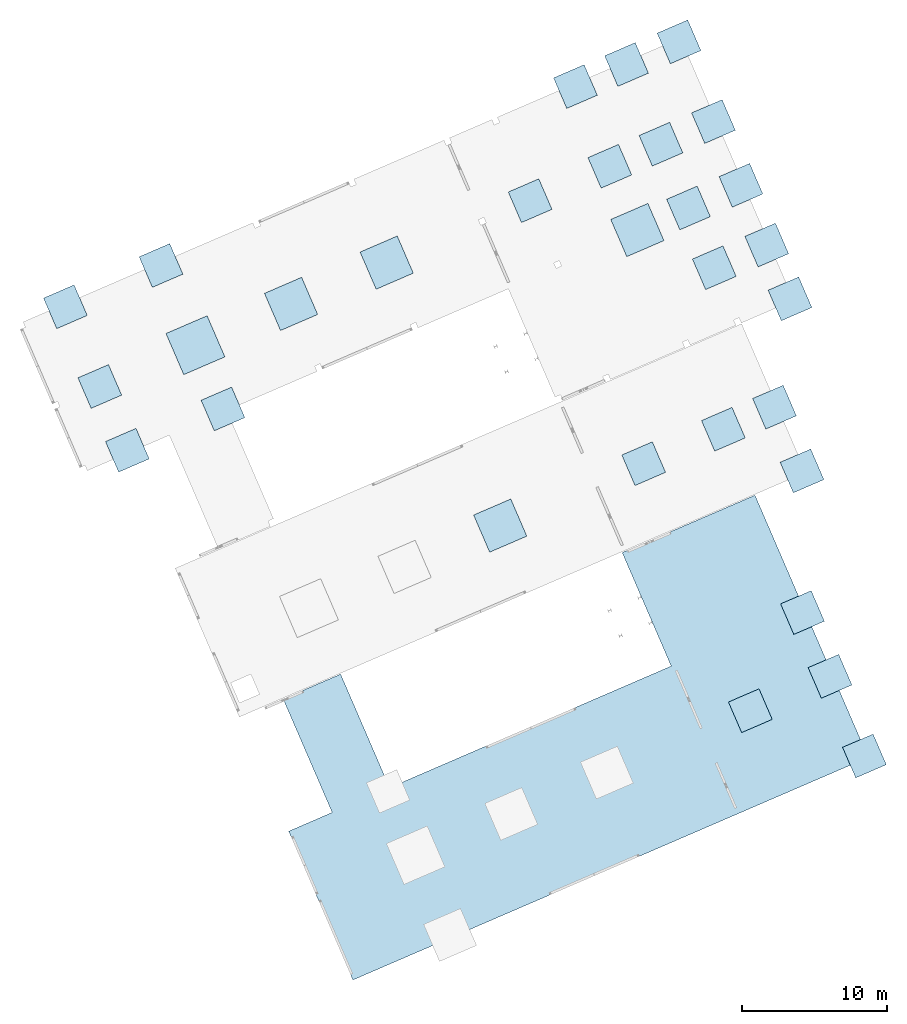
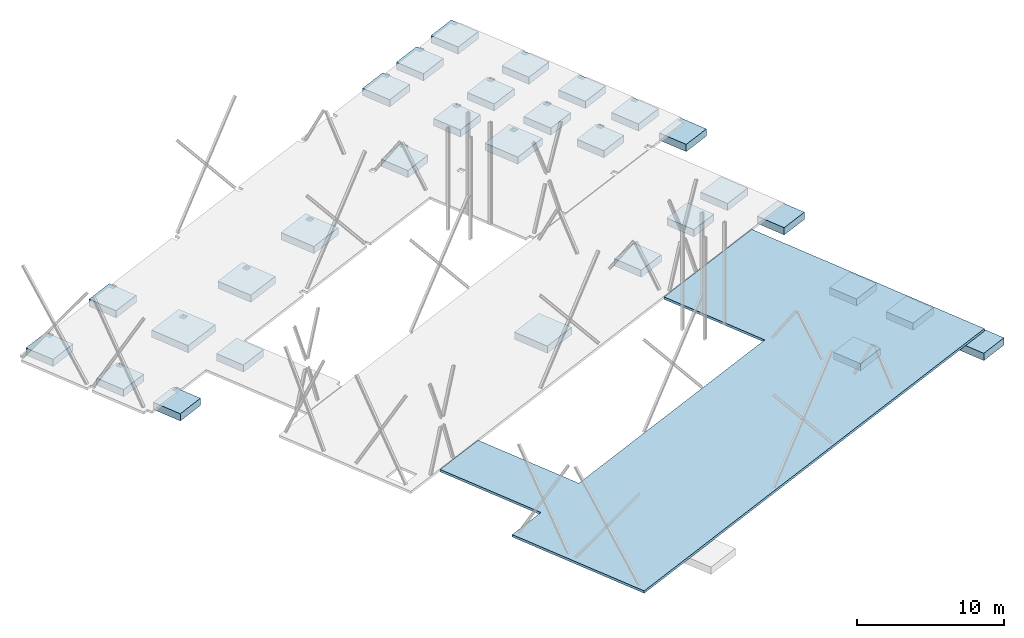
# One storey, part 5 of 6: 31 slabs.
"""IFC4 building model written with IfcOpenShell, lengths in metres."""

from ifc_helpers import new_model, entity, si_unit, converted_unit, derived_unit, direction, frame, origin, place, context, subcontext, project, spatial, indexed_curve, outline, extrude, material, type_object, element, save


model = new_model("IFC4")

# Units and contexts
model_context = context("Model", 3, precision=1e-05, world=origin(), true_north=direction((6.12323399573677e-17, 1.0)))
body_context = subcontext(model_context, "Body", "Model", "MODEL_VIEW")
ifc_project = project(units=[si_unit("LENGTHUNIT", "METRE"), si_unit("AREAUNIT", "SQUARE_METRE"), si_unit("VOLUMEUNIT", "CUBIC_METRE"), converted_unit("PLANEANGLEUNIT", "DEGREE", entity("IfcPlaneAngleMeasure", 0.0174532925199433), si_unit("PLANEANGLEUNIT", "RADIAN"), dimensions=[0, 0, 0, 0, 0, 0, 0]), si_unit("MASSUNIT", "GRAM", prefix="KILO"), derived_unit("MOMENTOFINERTIAUNIT", [(si_unit("LENGTHUNIT", "METRE"), 4)]), derived_unit("LINEARFORCEUNIT", [(si_unit("MASSUNIT", "GRAM", prefix="KILO"), 1), (si_unit("TIMEUNIT", "SECOND"), -2)]), derived_unit("WARPINGCONSTANTUNIT", [(si_unit("LENGTHUNIT", "METRE"), 6)]), derived_unit("THERMALTRANSMITTANCEUNIT", [(si_unit("MASSUNIT", "GRAM", prefix="KILO"), 1), (si_unit("THERMODYNAMICTEMPERATUREUNIT", "KELVIN"), -1), (si_unit("TIMEUNIT", "SECOND"), -3)]), derived_unit("USERDEFINED", [(si_unit("MASSUNIT", "GRAM", prefix="KILO"), 1), (si_unit("TIMEUNIT", "SECOND"), -2), (si_unit("THERMODYNAMICTEMPERATUREUNIT", "KELVIN"), -1)]), derived_unit("THERMALRESISTANCEUNIT", [(si_unit("MASSUNIT", "GRAM", prefix="KILO"), -1), (si_unit("TIMEUNIT", "SECOND"), 3), (si_unit("THERMODYNAMICTEMPERATUREUNIT", "KELVIN"), 1)])], contexts=[model_context])

# Site, building, storey
site_placement = place(None, origin())
site = spatial("IfcSite", under=ifc_project, at=site_placement, Name="Default", CompositionType="ELEMENT")
building_placement = place(site_placement, frame((12.6613425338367, -82.5732315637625, 317.15), z_axis=(0.0, 0.0, 1.0), x_axis=(-0.396377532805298, 0.918087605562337, 0.0)))
building = spatial("IfcBuilding", under=site, at=building_placement, Name="CESFAM Coyhaique", CompositionType="ELEMENT")
storey_placement = place(building_placement, frame((0.0, 0.0, -0.0500000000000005)))
storey = spatial("IfcBuildingStorey", under=building, at=storey_placement, Name="Nivel 1", CompositionType="ELEMENT", Elevation=-0.0500000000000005)

# Slabs
ifc_material_1 = material(Name="HA")
slab_type_1 = type_object("IfcSlabType", Name="Floor:Radier - 100mm", PredefinedType="FLOOR", material=ifc_material_1)
slab_1_placement = place(storey_placement, origin())
element("IfcSlab", 1, at=slab_1_placement, inside=storey, type_object=slab_type_1, material=ifc_material_1, Name="Floor:Radier - 100mm", ObjectType="Floor:Radier - 100mm", PredefinedType="FLOOR", context=body_context, shape_type="SweptSolid", body=[
    extrude(outline(indexed_curve([(-23.1050003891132, -12.3799848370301), (15.6950000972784, -12.3799848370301), (15.6950000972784, -1.17998483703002), (12.4200000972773, -1.17998483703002), (12.4200000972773, 7.37001525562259), (8.09500009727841, 7.37001525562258), (8.09500009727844, -1.17998483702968), (-13.104999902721, -1.17998483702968), (-13.104999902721, 7.36993925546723), (-23.1050003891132, 7.36993925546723), (-23.1050003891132, -12.3799848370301)], self_intersect=False)), frame((16.3488382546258, 1.70785030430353, 0.0), z_axis=(0.0, 0.0, -1.0), x_axis=(0.0, 1.0, 0.0)), (0.0, 0.0, 1.0), 0.2),
])
ifc_material_2 = material(Name="HA", Category="Undefined")
slab_type_2 = type_object("IfcSlabType", Name="M_Pile Cap-Rectangular:2800 x 2800 x 600mm", PredefinedType="BASESLAB", material=ifc_material_1)
slab_2_placement = place(storey_placement, origin())
element("IfcSlab", 2, at=slab_2_placement, inside=storey, type_object=slab_type_2, material=ifc_material_2, Name="M_Pile Cap-Rectangular:2800 x 2800 x 600mm", ObjectType="M_Pile Cap-Rectangular:2800 x 2800 x 600mm", PredefinedType="BASESLAB", context=body_context, shape_type="SweptSolid", body=[
    extrude(outline(indexed_curve([(-1.40000000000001, -1.4), (-0.100000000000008, -1.4), (0.0999999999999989, -1.4), (1.39999999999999, -1.4), (1.39999999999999, -0.0999999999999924), (1.39999999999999, 0.100000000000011), (1.39999999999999, 1.4), (0.0999999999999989, 1.4), (-0.100000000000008, 1.4), (-1.40000000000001, 1.4), (-1.40000000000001, 0.100000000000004), (-1.40000000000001, -0.0999999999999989), (-1.40000000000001, -1.4)], self_intersect=False)), frame((28.7688534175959, -4.39714959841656, -1.5), z_axis=(0.0, 0.0, 1.0), x_axis=(-1.0, 0.0, 0.0)), (0.0, 0.0, 1.0), 0.6),
])
slab_3_placement = place(storey_placement, origin())
element("IfcSlab", 3, at=slab_3_placement, inside=storey, type_object=slab_type_2, material=ifc_material_2, Name="M_Pile Cap-Rectangular:2800 x 2800 x 600mm", ObjectType="M_Pile Cap-Rectangular:2800 x 2800 x 600mm", PredefinedType="BASESLAB", context=body_context, shape_type="SweptSolid", body=[
    extrude(outline(indexed_curve([(-1.40000000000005, -1.4), (-0.0999999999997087, -1.4), (0.100000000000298, -1.4), (1.39999999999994, -1.4), (1.39999999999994, -0.100000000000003), (1.39999999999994, 0.100000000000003), (1.39999999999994, 1.4), (0.0999999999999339, 1.4), (-0.100000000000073, 1.4), (-1.40000000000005, 1.4), (-1.40000000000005, 0.100000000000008), (-1.40000000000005, -0.0999999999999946), (-1.40000000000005, -1.4)], self_intersect=False)), frame((43.7688534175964, -21.197149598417, -1.5), z_axis=(0.0, 0.0, 1.0), x_axis=(-1.0, 0.0, 0.0)), (0.0, 0.0, 1.0), 0.6),
])
slab_4_placement = place(storey_placement, origin())
element("IfcSlab", 4, at=slab_4_placement, inside=storey, type_object=slab_type_2, material=ifc_material_2, Name="M_Pile Cap-Rectangular:2800 x 2800 x 600mm", ObjectType="M_Pile Cap-Rectangular:2800 x 2800 x 600mm", PredefinedType="BASESLAB", context=body_context, shape_type="SweptSolid", body=[
    extrude(outline(indexed_curve([(-1.40000000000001, -1.4), (-0.100000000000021, -1.4), (0.0999999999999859, -1.4), (1.39999999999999, -1.4), (1.39999999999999, -0.0999999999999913), (1.39999999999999, 0.100000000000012), (1.39999999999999, 1.4), (0.0999999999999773, 1.4), (-0.100000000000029, 1.4), (-1.40000000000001, 1.4), (-1.40000000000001, 0.100000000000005), (-1.40000000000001, -0.0999999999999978), (-1.40000000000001, -1.4)], self_intersect=False)), frame((48.5688534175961, 2.80285040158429, -1.5), z_axis=(0.0, 0.0, 1.0), x_axis=(-1.0, 0.0, 0.0)), (0.0, 0.0, 1.0), 0.6),
])
slab_5_placement = place(storey_placement, origin())
element("IfcSlab", 5, at=slab_5_placement, inside=storey, type_object=slab_type_2, material=ifc_material_2, Name="M_Pile Cap-Rectangular:2800 x 2800 x 600mm", ObjectType="M_Pile Cap-Rectangular:2800 x 2800 x 600mm", PredefinedType="BASESLAB", context=body_context, shape_type="SweptSolid", body=[
    extrude(outline(indexed_curve([(-1.40000000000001, -1.4), (-0.100000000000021, -1.4), (0.0999999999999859, -1.4), (1.39999999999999, -1.4), (1.39999999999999, -0.0999999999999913), (1.39999999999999, 0.100000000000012), (1.39999999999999, 1.4), (0.0999999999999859, 1.4), (-0.100000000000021, 1.4), (-1.40000000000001, 1.4), (-1.40000000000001, 0.100000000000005), (-1.40000000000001, -0.0999999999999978), (-1.40000000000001, -1.4)], self_intersect=False)), frame((48.5688534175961, -4.39714959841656, -1.5), z_axis=(0.0, 0.0, 1.0), x_axis=(-1.0, 0.0, 0.0)), (0.0, 0.0, 1.0), 0.6),
])
slab_type_3 = type_object("IfcSlabType", Name="M_Pile Cap-Rectangular:2300 x 2300 x 600mm", PredefinedType="BASESLAB", material=ifc_material_1)
slab_6_placement = place(storey_placement, origin())
element("IfcSlab", 6, at=slab_6_placement, inside=storey, type_object=slab_type_3, material=ifc_material_2, Name="M_Pile Cap-Rectangular:2300 x 2300 x 600mm", ObjectType="M_Pile Cap-Rectangular:2300 x 2300 x 600mm", PredefinedType="BASESLAB", context=body_context, shape_type="SweptSolid", body=[
    extrude(outline(indexed_curve([(-0.862500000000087, -0.862500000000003), (0.18750000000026, -0.862500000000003), (0.387500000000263, -0.862500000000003), (1.43749999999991, -0.862500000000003), (1.43749999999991, 1.4375), (-0.862500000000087, 1.4375), (-0.862500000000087, 0.387500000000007), (-0.862500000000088, 0.187500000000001), (-0.862500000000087, -0.862500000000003)], self_intersect=False)), frame((4.4563534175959, -20.9096495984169, -1.5), z_axis=(0.0, 0.0, 1.0), x_axis=(-1.0, 0.0, 0.0)), (0.0, 0.0, 1.0), 0.6),
])
slab_7_placement = place(storey_placement, origin())
element("IfcSlab", 7, at=slab_7_placement, inside=storey, type_object=slab_type_3, material=ifc_material_2, Name="M_Pile Cap-Rectangular:2300 x 2300 x 600mm", ObjectType="M_Pile Cap-Rectangular:2300 x 2300 x 600mm", PredefinedType="BASESLAB", context=body_context, shape_type="SweptSolid", body=[
    extrude(outline(indexed_curve([(-1.15000000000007, -0.920000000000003), (-0.0999999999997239, -0.920000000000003), (0.100000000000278, -0.920000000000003), (1.14999999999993, -0.920000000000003), (1.14999999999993, 0.129999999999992), (1.14999999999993, 0.329999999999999), (1.14999999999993, 1.38), (-1.15000000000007, 1.38), (-1.15000000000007, 0.330000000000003), (-1.15000000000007, 0.130000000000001), (-1.15000000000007, -0.920000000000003)], self_intersect=False)), frame((10.168853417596, -20.9671495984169, -1.5), z_axis=(0.0, 0.0, 1.0), x_axis=(-1.0, 0.0, 0.0)), (0.0, 0.0, 1.0), 0.6),
])
slab_8_placement = place(storey_placement, origin())
element("IfcSlab", 8, at=slab_8_placement, inside=storey, type_object=slab_type_3, material=ifc_material_2, Name="M_Pile Cap-Rectangular:2300 x 2300 x 600mm", ObjectType="M_Pile Cap-Rectangular:2300 x 2300 x 600mm", PredefinedType="BASESLAB", context=body_context, shape_type="SweptSolid", body=[
    extrude(outline(indexed_curve([(-1.15000000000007, -0.920000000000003), (-0.099999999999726, -0.920000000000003), (0.100000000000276, -0.920000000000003), (1.14999999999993, -0.920000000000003), (1.14999999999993, 0.129999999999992), (1.14999999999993, 0.329999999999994), (1.14999999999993, 1.38), (-1.15000000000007, 1.38), (-1.15000000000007, 0.330000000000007), (-1.15000000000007, 0.130000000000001), (-1.15000000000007, -0.920000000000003)], self_intersect=False)), frame((14.968853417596, -20.9671495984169, -1.5), z_axis=(0.0, 0.0, 1.0), x_axis=(-1.0, 0.0, 0.0)), (0.0, 0.0, 1.0), 0.6),
])
slab_9_placement = place(storey_placement, origin())
element("IfcSlab", 9, at=slab_9_placement, inside=storey, type_object=slab_type_3, material=ifc_material_2, Name="M_Pile Cap-Rectangular:2300 x 2300 x 600mm", ObjectType="M_Pile Cap-Rectangular:2300 x 2300 x 600mm", PredefinedType="BASESLAB", context=body_context, shape_type="SweptSolid", body=[
    extrude(outline(indexed_curve([(-1.15, -0.919999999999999), (-0.100000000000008, -0.919999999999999), (0.0999999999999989, -0.919999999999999), (1.15, -0.919999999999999), (1.15, 0.129999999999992), (1.15, 0.329999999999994), (1.15, 1.38), (-1.15, 1.38), (-1.15, 0.330000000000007), (-1.15, 0.130000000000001), (-1.15, -0.919999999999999)], self_intersect=False)), frame((28.7688534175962, -20.967149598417, -1.5), z_axis=(0.0, 0.0, 1.0), x_axis=(-1.0, 0.0, 0.0)), (0.0, 0.0, 1.0), 0.6),
])
slab_10_placement = place(storey_placement, origin())
element("IfcSlab", 10, at=slab_10_placement, inside=storey, type_object=slab_type_3, material=ifc_material_2, Name="M_Pile Cap-Rectangular:2300 x 2300 x 600mm", ObjectType="M_Pile Cap-Rectangular:2300 x 2300 x 600mm", PredefinedType="BASESLAB", context=body_context, shape_type="SweptSolid", body=[
    extrude(outline(indexed_curve([(-1.15, -1.15000000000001), (-0.100000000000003, -1.15000000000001), (0.100000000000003, -1.15000000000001), (1.15, -1.15000000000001), (1.15, -0.0999999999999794), (1.15, 0.100000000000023), (1.15, 1.14999999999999), (0.0999999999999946, 1.14999999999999), (-0.100000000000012, 1.14999999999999), (-1.15, 1.14999999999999), (-1.15, 0.100000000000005), (-1.15, -0.0999999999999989), (-1.15, -1.15000000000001)], self_intersect=False)), frame((43.7688534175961, 17.2028504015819, -1.5), z_axis=(0.0, 0.0, 1.0), x_axis=(-1.0, 0.0, 0.0)), (0.0, 0.0, 1.0), 0.6),
])
slab_11_placement = place(storey_placement, origin())
element("IfcSlab", 11, at=slab_11_placement, inside=storey, type_object=slab_type_3, material=ifc_material_2, Name="M_Pile Cap-Rectangular:2300 x 2300 x 600mm", ObjectType="M_Pile Cap-Rectangular:2300 x 2300 x 600mm", PredefinedType="BASESLAB", context=body_context, shape_type="SweptSolid", body=[
    extrude(outline(indexed_curve([(-1.15, -1.15000000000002), (-0.100000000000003, -1.15000000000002), (0.100000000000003, -1.15000000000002), (1.15, -1.15000000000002), (1.15, -0.0999999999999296), (1.15, 0.100000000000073), (1.15, 1.14999999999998), (0.0999999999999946, 1.14999999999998), (-0.100000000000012, 1.14999999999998), (-1.15, 1.14999999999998), (-1.15, 0.0999999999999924), (-1.15, -0.100000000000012), (-1.15, -1.15000000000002)], self_intersect=False)), frame((43.7688534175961, 10.0028504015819, -1.5), z_axis=(0.0, 0.0, 1.0), x_axis=(-1.0, 0.0, 0.0)), (0.0, 0.0, 1.0), 0.6),
])
slab_12_placement = place(storey_placement, origin())
element("IfcSlab", 12, at=slab_12_placement, inside=storey, type_object=slab_type_3, material=ifc_material_2, Name="M_Pile Cap-Rectangular:2300 x 2300 x 600mm", ObjectType="M_Pile Cap-Rectangular:2300 x 2300 x 600mm", PredefinedType="BASESLAB", context=body_context, shape_type="SweptSolid", body=[
    extrude(outline(indexed_curve([(-1.15, -1.15), (-0.100000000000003, -1.15), (0.100000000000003, -1.15), (1.15, -1.15), (1.15, -0.0999999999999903), (1.15, 0.100000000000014), (1.15, 1.15), (0.0999999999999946, 1.15), (-0.100000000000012, 1.15), (-1.15, 1.15), (-1.15, 0.100000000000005), (-1.15, -0.0999999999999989), (-1.15, -1.15)], self_intersect=False)), frame((48.5688534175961, 17.2028504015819, -1.5), z_axis=(0.0, 0.0, 1.0), x_axis=(-1.0, 0.0, 0.0)), (0.0, 0.0, 1.0), 0.6),
])
slab_13_placement = place(storey_placement, origin())
element("IfcSlab", 13, at=slab_13_placement, inside=storey, type_object=slab_type_3, material=ifc_material_2, Name="M_Pile Cap-Rectangular:2300 x 2300 x 600mm", ObjectType="M_Pile Cap-Rectangular:2300 x 2300 x 600mm", PredefinedType="BASESLAB", context=body_context, shape_type="SweptSolid", body=[
    extrude(outline(indexed_curve([(-1.15000000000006, -1.15), (-0.0999999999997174, -1.15), (0.100000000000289, -1.15), (1.14999999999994, -1.15), (1.14999999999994, -0.100000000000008), (1.14999999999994, 0.0999999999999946), (1.14999999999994, 1.15), (0.0999999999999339, 1.15), (-0.100000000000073, 1.15), (-1.15000000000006, 1.15), (-1.15000000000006, 0.100000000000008), (-1.15000000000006, -0.0999999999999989), (-1.15000000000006, -1.15)], self_intersect=False)), frame((48.5688534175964, -21.1971495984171, -1.5), z_axis=(0.0, 0.0, 1.0), x_axis=(-1.0, 0.0, 0.0)), (0.0, 0.0, 1.0), 0.6),
])
slab_14_placement = place(storey_placement, origin())
element("IfcSlab", 14, at=slab_14_placement, inside=storey, type_object=slab_type_3, material=ifc_material_2, Name="M_Pile Cap-Rectangular:2300 x 2300 x 600mm", ObjectType="M_Pile Cap-Rectangular:2300 x 2300 x 600mm", PredefinedType="BASESLAB", context=body_context, shape_type="SweptSolid", body=[
    extrude(outline(indexed_curve([(-1.38, -1.15), (-0.330000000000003, -1.15), (-0.129999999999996, -1.15), (0.919999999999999, -1.15), (0.919999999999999, -0.0999999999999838), (0.919999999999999, 0.100000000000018), (0.919999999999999, 1.15), (-0.129999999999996, 1.15), (-0.330000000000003, 1.15), (-1.38, 1.15), (-1.38, -1.15)], self_intersect=False)), frame((54.3388534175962, 17.2028504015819, -1.5), z_axis=(0.0, 0.0, 1.0), x_axis=(-1.0, 0.0, 0.0)), (0.0, 0.0, 1.0), 0.6),
])
slab_15_placement = place(storey_placement, origin())
element("IfcSlab", 15, at=slab_15_placement, inside=storey, type_object=slab_type_3, material=ifc_material_2, Name="M_Pile Cap-Rectangular:2300 x 2300 x 600mm", ObjectType="M_Pile Cap-Rectangular:2300 x 2300 x 600mm", PredefinedType="BASESLAB", context=body_context, shape_type="SweptSolid", body=[
    extrude(outline(indexed_curve([(-1.38, -1.15000000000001), (-0.329999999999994, -1.15000000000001), (-0.129999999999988, -1.15000000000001), (0.919999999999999, -1.15000000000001), (0.919999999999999, -0.0999999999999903), (0.919999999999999, 0.100000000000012), (0.919999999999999, 1.15), (-0.130000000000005, 1.14999999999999), (-0.330000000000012, 1.15), (-1.38, 1.15), (-1.38, -1.15000000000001)], self_intersect=False)), frame((54.3388534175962, 10.0028504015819, -1.5), z_axis=(0.0, 0.0, 1.0), x_axis=(-1.0, 0.0, 0.0)), (0.0, 0.0, 1.0), 0.6),
])
slab_16_placement = place(storey_placement, origin())
element("IfcSlab", 16, at=slab_16_placement, inside=storey, type_object=slab_type_3, material=ifc_material_2, Name="M_Pile Cap-Rectangular:2300 x 2300 x 600mm", ObjectType="M_Pile Cap-Rectangular:2300 x 2300 x 600mm", PredefinedType="BASESLAB", context=body_context, shape_type="SweptSolid", body=[
    extrude(outline(indexed_curve([(-1.38000000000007, -1.15), (-0.329999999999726, -1.15), (-0.129999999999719, -1.15), (0.919999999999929, -1.15), (0.919999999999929, -0.100000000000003), (0.919999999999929, 0.100000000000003), (0.919999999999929, 1.15), (-0.130000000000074, 1.15), (-0.330000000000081, 1.15), (-1.38000000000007, 1.15), (-1.38000000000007, -1.15)], self_intersect=False)), frame((54.3388534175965, -21.1971495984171, -1.5), z_axis=(0.0, 0.0, 1.0), x_axis=(-1.0, 0.0, 0.0)), (0.0, 0.0, 1.0), 0.6),
])
slab_17_placement = place(storey_placement, origin())
element("IfcSlab", 17, at=slab_17_placement, inside=storey, type_object=slab_type_3, material=ifc_material_2, Name="M_Pile Cap-Rectangular:2300 x 2300 x 600mm", ObjectType="M_Pile Cap-Rectangular:2300 x 2300 x 600mm", PredefinedType="BASESLAB", context=body_context, shape_type="SweptSolid", body=[
    extrude(outline(indexed_curve([(-1.15, -0.919999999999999), (-0.100000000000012, -0.919999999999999), (0.0999999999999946, -0.919999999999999), (1.15, -0.919999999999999), (1.15, 0.129999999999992), (1.15, 0.329999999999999), (1.15, 1.38), (-1.15, 1.38), (-1.15, 0.330000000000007), (-1.15, 0.130000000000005), (-1.15, -0.919999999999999)], self_intersect=False)), frame((43.7688534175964, -28.767149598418, -1.5), z_axis=(0.0, 0.0, 1.0), x_axis=(-1.0, 0.0, 0.0)), (0.0, 0.0, 1.0), 0.6),
])
slab_18_placement = place(storey_placement, origin())
element("IfcSlab", 18, at=slab_18_placement, inside=storey, type_object=slab_type_3, material=ifc_material_2, Name="M_Pile Cap-Rectangular:2300 x 2300 x 600mm", ObjectType="M_Pile Cap-Rectangular:2300 x 2300 x 600mm", PredefinedType="BASESLAB", context=body_context, shape_type="SweptSolid", body=[
    extrude(outline(indexed_curve([(-1.14999999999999, -0.920000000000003), (-0.100000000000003, -0.920000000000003), (0.100000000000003, -0.920000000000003), (1.15000000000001, -0.920000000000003), (1.15000000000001, 0.129999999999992), (1.15000000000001, 0.329999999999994), (1.15000000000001, 1.38), (-1.14999999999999, 1.38), (-1.14999999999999, 0.330000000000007), (-1.14999999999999, 0.130000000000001), (-1.14999999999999, -0.920000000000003)], self_intersect=False)), frame((48.5688534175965, -28.7671495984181, -1.5), z_axis=(0.0, 0.0, 1.0), x_axis=(-1.0, 0.0, 0.0)), (0.0, 0.0, 1.0), 0.6),
])
slab_19_placement = place(storey_placement, origin())
element("IfcSlab", 19, at=slab_19_placement, inside=storey, type_object=slab_type_3, material=ifc_material_2, Name="M_Pile Cap-Rectangular:2300 x 2300 x 600mm", ObjectType="M_Pile Cap-Rectangular:2300 x 2300 x 600mm", PredefinedType="BASESLAB", context=body_context, shape_type="SweptSolid", body=[
    extrude(outline(indexed_curve([(-1.4375, -0.862499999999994), (-0.387499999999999, -0.862499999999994), (-0.187499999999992, -0.862499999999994), (0.862499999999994, -0.862499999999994), (0.862499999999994, 0.187500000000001), (0.862499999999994, 0.387500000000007), (0.862499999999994, 1.43750000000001), (-1.4375, 1.43750000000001), (-1.4375, -0.862499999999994)], self_intersect=False)), frame((54.2813534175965, -28.7096495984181, -1.5), z_axis=(0.0, 0.0, 1.0), x_axis=(-1.0, 0.0, 0.0)), (0.0, 0.0, 1.0), 0.6),
])
slab_20_placement = place(storey_placement, origin())
element("IfcSlab", 20, at=slab_20_placement, inside=storey, type_object=slab_type_3, material=ifc_material_2, Name="M_Pile Cap-Rectangular:2300 x 2300 x 600mm", ObjectType="M_Pile Cap-Rectangular:2300 x 2300 x 600mm", PredefinedType="BASESLAB", context=body_context, shape_type="SweptSolid", body=[
    extrude(outline(indexed_curve([(-1.15, -1.15), (-0.100000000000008, -1.15), (0.0999999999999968, -1.15), (1.15, -1.15), (1.15, -0.0999999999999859), (1.15, 0.100000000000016), (1.15, 1.15), (0.100000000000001, 1.15), (-0.100000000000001, 1.15), (-1.15, 1.15), (-1.15, 0.100000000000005), (-1.15, -0.0999999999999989), (-1.15, -1.15)], self_intersect=False)), frame((10.1688534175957, -15.1971495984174, -1.5), z_axis=(0.0, 0.0, 1.0), x_axis=(-1.0, 0.0, 0.0)), (0.0, 0.0, 1.0), 0.6),
])
slab_21_placement = place(storey_placement, origin())
element("IfcSlab", 21, at=slab_21_placement, inside=storey, type_object=slab_type_3, material=ifc_material_2, Name="M_Pile Cap-Rectangular:2300 x 2300 x 600mm", ObjectType="M_Pile Cap-Rectangular:2300 x 2300 x 600mm", PredefinedType="BASESLAB", context=body_context, shape_type="SweptSolid", body=[
    extrude(outline(indexed_curve([(-1.14999999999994, -1.15), (-0.099999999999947, -1.15), (0.10000000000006, -1.15), (1.15000000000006, -1.15), (1.15000000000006, -0.0999999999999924), (1.15000000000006, 0.100000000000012), (1.15000000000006, 1.15), (0.0999999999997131, 1.15), (-0.100000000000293, 1.15), (-1.14999999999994, 1.15), (-1.14999999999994, 0.100000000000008), (-1.14999999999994, -0.0999999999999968), (-1.14999999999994, -1.15)], self_intersect=False)), frame((28.768853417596, -15.1971495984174, -1.5), z_axis=(0.0, 0.0, 1.0), x_axis=(-1.0, 0.0, 0.0)), (0.0, 0.0, 1.0), 0.6),
])
slab_22_placement = place(storey_placement, origin())
element("IfcSlab", 22, at=slab_22_placement, inside=storey, type_object=slab_type_3, material=ifc_material_2, Name="M_Pile Cap-Rectangular:2300 x 2300 x 600mm", ObjectType="M_Pile Cap-Rectangular:2300 x 2300 x 600mm", PredefinedType="BASESLAB", context=body_context, shape_type="SweptSolid", body=[
    extrude(outline(indexed_curve([(-1.15, -1.15), (-0.0999999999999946, -1.15), (0.100000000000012, -1.15), (1.15, -1.15), (1.15, -0.0999999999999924), (1.15, 0.100000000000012), (1.15, 1.15), (0.0999999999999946, 1.15), (-0.100000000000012, 1.15), (-1.15, 1.15), (-1.15, 0.100000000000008), (-1.15, -0.0999999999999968), (-1.15, -1.15)], self_intersect=False)), frame((48.5688534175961, -15.1971495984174, -1.5), z_axis=(0.0, 0.0, 1.0), x_axis=(-1.0, 0.0, 0.0)), (0.0, 0.0, 1.0), 0.6),
])
slab_23_placement = place(storey_placement, origin())
element("IfcSlab", 23, at=slab_23_placement, inside=storey, type_object=slab_type_3, material=ifc_material_2, Name="M_Pile Cap-Rectangular:2300 x 2300 x 600mm", ObjectType="M_Pile Cap-Rectangular:2300 x 2300 x 600mm", PredefinedType="BASESLAB", context=body_context, shape_type="SweptSolid", body=[
    extrude(outline(indexed_curve([(-1.15, -1.15000000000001), (1.15, -1.15000000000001), (1.15, -0.0999999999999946), (1.15, 0.100000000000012), (1.15, 1.14999999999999), (-1.15, 1.14999999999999), (-1.15, 0.100000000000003), (-1.15, -0.100000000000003), (-1.15, -1.15000000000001)], self_intersect=False)), frame((28.7688534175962, -25.0471495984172, -1.5), z_axis=(0.0, 0.0, 1.0), x_axis=(-1.0, 0.0, 0.0)), (0.0, 0.0, 1.0), 0.6),
])
slab_24_placement = place(storey_placement, origin())
element("IfcSlab", 24, at=slab_24_placement, inside=storey, type_object=slab_type_3, material=ifc_material_2, Name="M_Pile Cap-Rectangular:2300 x 2300 x 600mm", ObjectType="M_Pile Cap-Rectangular:2300 x 2300 x 600mm", PredefinedType="BASESLAB", context=body_context, shape_type="SweptSolid", body=[
    extrude(outline(indexed_curve([(-0.862499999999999, -0.862500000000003), (0.187500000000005, -0.862500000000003), (0.387500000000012, -0.862500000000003), (1.4375, -0.862500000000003), (1.4375, 1.4375), (-0.862499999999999, 1.4375), (-0.862499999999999, 0.387500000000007), (-0.862499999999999, 0.187500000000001), (-0.862499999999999, -0.862500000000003)], self_intersect=False)), frame((24.2563534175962, -24.7596495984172, -1.5), z_axis=(0.0, 0.0, 1.0), x_axis=(-1.0, 0.0, 0.0)), (0.0, 0.0, 1.0), 0.6),
])
slab_25_placement = place(storey_placement, origin())
element("IfcSlab", 25, at=slab_25_placement, inside=storey, type_object=slab_type_3, material=ifc_material_2, Name="M_Pile Cap-Rectangular:2300 x 2300 x 600mm", ObjectType="M_Pile Cap-Rectangular:2300 x 2300 x 600mm", PredefinedType="BASESLAB", context=body_context, shape_type="SweptSolid", body=[
    extrude(outline(indexed_curve([(-1.15, -1.15), (-0.100000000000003, -1.15), (0.100000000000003, -1.15), (1.15, -1.15), (1.15, -0.100000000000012), (1.15, 0.0999999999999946), (1.15, 1.15), (0.0999999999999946, 1.15), (-0.100000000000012, 1.15), (-1.15, 1.15), (-1.15, 0.100000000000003), (-1.15, -0.0999999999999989), (-1.15, -1.15)], self_intersect=False)), frame((43.7688534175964, -25.0471495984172, -1.5), z_axis=(0.0, 0.0, 1.0), x_axis=(-1.0, 0.0, 0.0)), (0.0, 0.0, 1.0), 0.6),
])
slab_26_placement = place(storey_placement, origin())
element("IfcSlab", 26, at=slab_26_placement, inside=storey, type_object=slab_type_3, material=ifc_material_2, Name="M_Pile Cap-Rectangular:2300 x 2300 x 600mm", ObjectType="M_Pile Cap-Rectangular:2300 x 2300 x 600mm", PredefinedType="BASESLAB", context=body_context, shape_type="SweptSolid", body=[
    extrude(outline(indexed_curve([(-1.15, -1.15000000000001), (-0.100000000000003, -1.15000000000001), (0.100000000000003, -1.15000000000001), (1.15, -1.15000000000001), (1.15, -0.0999999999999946), (1.15, 0.100000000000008), (1.15, 1.14999999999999), (0.0999999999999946, 1.14999999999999), (-0.100000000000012, 1.14999999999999), (-1.15, 1.14999999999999), (-1.15, 0.100000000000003), (-1.15, -0.100000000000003), (-1.15, -1.15000000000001)], self_intersect=False)), frame((48.5688534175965, -25.0471495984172, -1.5), z_axis=(0.0, 0.0, 1.0), x_axis=(-1.0, 0.0, 0.0)), (0.0, 0.0, 1.0), 0.6),
])
slab_27_placement = place(storey_placement, origin())
element("IfcSlab", 27, at=slab_27_placement, inside=storey, type_object=slab_type_3, material=ifc_material_2, Name="M_Pile Cap-Rectangular:2300 x 2300 x 600mm", ObjectType="M_Pile Cap-Rectangular:2300 x 2300 x 600mm", PredefinedType="BASESLAB", context=body_context, shape_type="SweptSolid", body=[
    extrude(outline(indexed_curve([(-1.37999999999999, -1.15000000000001), (-0.330000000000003, -1.15000000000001), (-0.129999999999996, -1.15000000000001), (0.920000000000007, -1.15000000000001), (0.920000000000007, -0.0999999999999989), (0.920000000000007, 0.100000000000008), (0.920000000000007, 1.14999999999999), (-0.129999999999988, 1.14999999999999), (-0.329999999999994, 1.14999999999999), (-1.37999999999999, 1.14999999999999), (-1.37999999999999, -1.15000000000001)], self_intersect=False)), frame((54.3388534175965, -25.0471495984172, -1.5), z_axis=(0.0, 0.0, 1.0), x_axis=(-1.0, 0.0, 0.0)), (0.0, 0.0, 1.0), 0.6),
])
slab_28_placement = place(storey_placement, origin())
element("IfcSlab", 28, at=slab_28_placement, inside=storey, type_object=slab_type_3, material=ifc_material_2, Name="M_Pile Cap-Rectangular:2300 x 2300 x 600mm", ObjectType="M_Pile Cap-Rectangular:2300 x 2300 x 600mm", PredefinedType="BASESLAB", context=body_context, shape_type="SweptSolid", body=[
    extrude(outline(indexed_curve([(-0.97499999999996, -0.862500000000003), (0.524999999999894, -0.862500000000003), (0.724999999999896, -0.862500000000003), (1.32500000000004, -0.862500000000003), (1.32500000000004, 1.4375), (-0.97499999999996, 1.4375), (-0.97499999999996, 0.387500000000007), (-0.97499999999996, 0.187500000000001), (-0.97499999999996, -0.862500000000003)], self_intersect=False)), frame((35.3938534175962, -28.709649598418, -1.5), z_axis=(0.0, 0.0, 1.0), x_axis=(-1.0, 0.0, 0.0)), (0.0, 0.0, 1.0), 0.6),
])
slab_29_placement = place(storey_placement, origin())
element("IfcSlab", 29, at=slab_29_placement, inside=storey, type_object=slab_type_3, material=ifc_material_2, Name="M_Pile Cap-Rectangular:2300 x 2300 x 600mm", ObjectType="M_Pile Cap-Rectangular:2300 x 2300 x 600mm", PredefinedType="BASESLAB", context=body_context, shape_type="SweptSolid", body=[
    extrude(outline(indexed_curve([(-1.14999999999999, -0.920000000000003), (-0.100000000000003, -0.920000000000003), (0.100000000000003, -0.920000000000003), (1.15000000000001, -0.920000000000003), (1.15000000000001, 0.129999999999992), (1.15000000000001, 0.329999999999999), (1.15000000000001, 1.38), (-1.14999999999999, 1.38), (-1.14999999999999, 0.330000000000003), (-1.14999999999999, 0.129999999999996), (-1.14999999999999, -0.920000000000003)], self_intersect=False)), frame((39.2688534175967, -28.767149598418, -1.5), z_axis=(0.0, 0.0, 1.0), x_axis=(-1.0, 0.0, 0.0)), (0.0, 0.0, 1.0), 0.6),
])
slab_30_placement = place(storey_placement, origin())
element("IfcSlab", 30, at=slab_30_placement, inside=storey, type_object=slab_type_3, material=ifc_material_2, Name="M_Pile Cap-Rectangular:2300 x 2300 x 600mm", ObjectType="M_Pile Cap-Rectangular:2300 x 2300 x 600mm", PredefinedType="BASESLAB", context=body_context, shape_type="SweptSolid", body=[
    extrude(outline(indexed_curve([(-1.15, -1.38000000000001), (1.15, -1.38000000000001), (1.15, -0.329999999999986), (1.15, -0.129999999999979), (1.15, 0.919999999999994), (0.0999999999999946, 0.919999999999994), (-0.100000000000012, 0.919999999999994), (-1.15, 0.919999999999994), (-1.15, -0.130000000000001), (-1.15, -0.330000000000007), (-1.15, -1.38000000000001)], self_intersect=False)), frame((39.2688534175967, -25.2771495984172, -1.5), z_axis=(0.0, 0.0, 1.0), x_axis=(-1.0, 0.0, 0.0)), (0.0, 0.0, 1.0), 0.6),
])
slab_type_4 = type_object("IfcSlabType", Name="M_Pile Cap-Rectangular:3100 x 3100 x 600mm", PredefinedType="BASESLAB", material=ifc_material_1)
slab_31_placement = place(storey_placement, origin())
element("IfcSlab", 31, at=slab_31_placement, inside=storey, type_object=slab_type_4, material=ifc_material_2, Name="M_Pile Cap-Rectangular:3100 x 3100 x 600mm", ObjectType="M_Pile Cap-Rectangular:3100 x 3100 x 600mm", PredefinedType="BASESLAB", context=body_context, shape_type="SweptSolid", body=[
    extrude(outline(indexed_curve([(-1.55, -1.55), (-0.100000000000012, -1.55), (0.0999999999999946, -1.55), (1.54999999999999, -1.55), (1.54999999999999, -0.0999999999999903), (1.54999999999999, 0.100000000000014), (1.54999999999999, 1.55), (0.0999999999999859, 1.55), (-0.100000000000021, 1.55), (-1.55, 1.55), (-1.55, 0.100000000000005), (-1.55, -0.0999999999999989), (-1.55, -1.55)], self_intersect=False)), frame((48.5688534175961, 10.0028504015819, -1.5), z_axis=(0.0, 0.0, 1.0), x_axis=(-1.0, 0.0, 0.0)), (0.0, 0.0, 1.0), 0.6),
])

save(model, "model.ifc")
